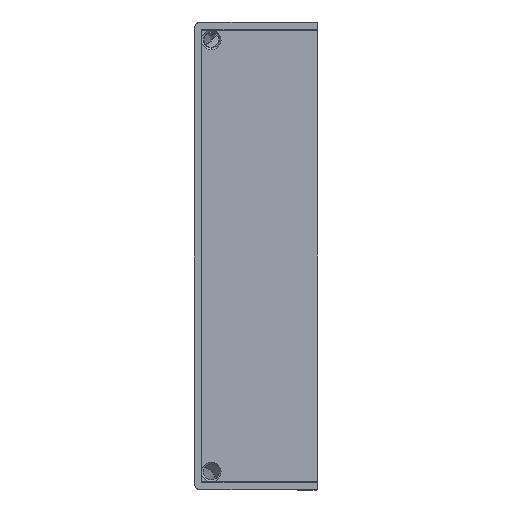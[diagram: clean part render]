
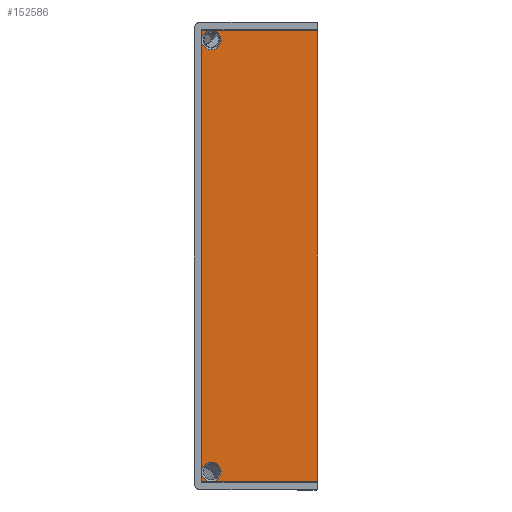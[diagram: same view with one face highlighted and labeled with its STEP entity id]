
A CAD part, left-side view. The second image highlights one B-rep face of the part: STEP entity #152586.
In plain terms, the highlighted planar face has unit normal (-1, 0, 0).
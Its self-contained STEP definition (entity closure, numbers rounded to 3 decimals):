
#908 = ORIENTED_EDGE ( 'NONE', *, *, #179595, .T. ) ;
#4258 = DIRECTION ( 'NONE',  ( 0., 1., 0. ) ) ;
#5704 = CARTESIAN_POINT ( 'NONE',  ( 0., 29.33, 121.85 ) ) ;
#7557 = CIRCLE ( 'NONE', #68201, 2.7 ) ;
#8149 = VECTOR ( 'NONE', #124570, 1000. ) ;
#10782 = EDGE_CURVE ( 'NONE', #13447, #104807, #67777, .T. ) ;
#11325 = CIRCLE ( 'NONE', #123201, 2.7 ) ;
#11792 = CARTESIAN_POINT ( 'NONE',  ( 0., 0.1, 0. ) ) ;
#12240 = EDGE_LOOP ( 'NONE', ( #174398, #150453, #103658, #154685, #177506, #66640, #27086, #129910, #151242, #93060, #908, #182055 ) ) ;
#13447 = VERTEX_POINT ( 'NONE', #11792 ) ;
#13498 = LINE ( 'NONE', #105611, #15500 ) ;
#15262 = VERTEX_POINT ( 'NONE', #32575 ) ;
#15500 = VECTOR ( 'NONE', #61929, 1000. ) ;
#16283 = LINE ( 'NONE', #183841, #130586 ) ;
#17562 = VERTEX_POINT ( 'NONE', #93212 ) ;
#19804 = CARTESIAN_POINT ( 'NONE',  ( 0., 31.9, 121.022 ) ) ;
#20687 = DIRECTION ( 'NONE',  ( 0., 0., -1. ) ) ;
#21163 = DIRECTION ( 'NONE',  ( 1., 0., 0. ) ) ;
#24700 = DIRECTION ( 'NONE',  ( 1., 0., 0. ) ) ;
#27086 = ORIENTED_EDGE ( 'NONE', *, *, #10782, .T. ) ;
#31409 = EDGE_CURVE ( 'NONE', #112810, #69861, #7557, .T. ) ;
#32575 = CARTESIAN_POINT ( 'NONE',  ( 0., 31.9, 2.022 ) ) ;
#33437 = CIRCLE ( 'NONE', #168617, 2.7 ) ;
#46646 = VERTEX_POINT ( 'NONE', #176530 ) ;
#47087 = CARTESIAN_POINT ( 'NONE',  ( 0., 0., 124.7 ) ) ;
#47467 = VECTOR ( 'NONE', #137121, 1000. ) ;
#48898 = CARTESIAN_POINT ( 'NONE',  ( 0., 0.1, 124.7 ) ) ;
#51307 = DIRECTION ( 'NONE',  ( 1., 0., 0. ) ) ;
#52275 = CARTESIAN_POINT ( 'NONE',  ( 0., 31.9, 124.7 ) ) ;
#55645 = CARTESIAN_POINT ( 'NONE',  ( 0., 31.9, 124.7 ) ) ;
#57325 = EDGE_CURVE ( 'NONE', #152050, #112810, #116180, .T. ) ;
#61929 = DIRECTION ( 'NONE',  ( 0., -1., 0. ) ) ;
#62922 = CARTESIAN_POINT ( 'NONE',  ( 0., 29.33, 124.55 ) ) ;
#66153 = AXIS2_PLACEMENT_3D ( 'NONE', #113941, #24700, #128947 ) ;
#66640 = ORIENTED_EDGE ( 'NONE', *, *, #179019, .T. ) ;
#67150 = EDGE_CURVE ( 'NONE', #157488, #152050, #188159, .T. ) ;
#67777 = LINE ( 'NONE', #48898, #186919 ) ;
#67889 = DIRECTION ( 'NONE',  ( 0., 0., -1. ) ) ;
#68201 = AXIS2_PLACEMENT_3D ( 'NONE', #140700, #51307, #155706 ) ;
#69132 = CARTESIAN_POINT ( 'NONE',  ( 0., 31.9, 0. ) ) ;
#69861 = VERTEX_POINT ( 'NONE', #160486 ) ;
#72819 = CARTESIAN_POINT ( 'NONE',  ( 0., 29.33, 119.15 ) ) ;
#73942 = CARTESIAN_POINT ( 'NONE',  ( 0., 29.33, 2.85 ) ) ;
#75094 = EDGE_CURVE ( 'NONE', #46646, #99009, #11325, .T. ) ;
#79363 = DIRECTION ( 'NONE',  ( 1., 0., 0. ) ) ;
#85812 = CARTESIAN_POINT ( 'NONE',  ( 0., 0.1, 124.7 ) ) ;
#85870 = VERTEX_POINT ( 'NONE', #69132 ) ;
#87081 = LINE ( 'NONE', #47087, #47467 ) ;
#88911 = DIRECTION ( 'NONE',  ( 0., 0., -1. ) ) ;
#90258 = CIRCLE ( 'NONE', #142301, 2.7 ) ;
#93060 = ORIENTED_EDGE ( 'NONE', *, *, #75094, .T. ) ;
#93212 = CARTESIAN_POINT ( 'NONE',  ( 0., 29.33, 0.15 ) ) ;
#93456 = DIRECTION ( 'NONE',  ( 1., 0., 0. ) ) ;
#99009 = VERTEX_POINT ( 'NONE', #62922 ) ;
#103658 = ORIENTED_EDGE ( 'NONE', *, *, #174695, .T. ) ;
#104807 = VERTEX_POINT ( 'NONE', #85812 ) ;
#105611 = CARTESIAN_POINT ( 'NONE',  ( 0., 0., 0. ) ) ;
#109551 = CARTESIAN_POINT ( 'NONE',  ( 0., 31.9, 124.7 ) ) ;
#109929 = DIRECTION ( 'NONE',  ( 1., 0., 0. ) ) ;
#110396 = CARTESIAN_POINT ( 'NONE',  ( 0., 29.33, 121.85 ) ) ;
#112810 = VERTEX_POINT ( 'NONE', #160198 ) ;
#113941 = CARTESIAN_POINT ( 'NONE',  ( 0., 29.33, 2.85 ) ) ;
#116180 = LINE ( 'NONE', #52275, #146512 ) ;
#122438 = LINE ( 'NONE', #109551, #8149 ) ;
#122877 = PLANE ( 'NONE',  #124443 ) ;
#123201 = AXIS2_PLACEMENT_3D ( 'NONE', #110396, #21163, #125420 ) ;
#124443 = AXIS2_PLACEMENT_3D ( 'NONE', #182282, #93456, #4258 ) ;
#124570 = DIRECTION ( 'NONE',  ( 0., 0., -1. ) ) ;
#124731 = EDGE_CURVE ( 'NONE', #128488, #104807, #87081, .T. ) ;
#125420 = DIRECTION ( 'NONE',  ( 0., 0., -1. ) ) ;
#127543 = CIRCLE ( 'NONE', #66153, 2.7 ) ;
#128488 = VERTEX_POINT ( 'NONE', #55645 ) ;
#128947 = DIRECTION ( 'NONE',  ( 0., 0., -1. ) ) ;
#129910 = ORIENTED_EDGE ( 'NONE', *, *, #124731, .F. ) ;
#130586 = VECTOR ( 'NONE', #138777, 1000. ) ;
#137121 = DIRECTION ( 'NONE',  ( 0., -1., 0. ) ) ;
#138278 = DIRECTION ( 'NONE',  ( 0., 0., 1. ) ) ;
#138777 = DIRECTION ( 'NONE',  ( 0., 0., -1. ) ) ;
#140700 = CARTESIAN_POINT ( 'NONE',  ( 0., 29.33, 2.85 ) ) ;
#142301 = AXIS2_PLACEMENT_3D ( 'NONE', #168852, #79363, #183837 ) ;
#146512 = VECTOR ( 'NONE', #67889, 1000. ) ;
#147758 = FACE_OUTER_BOUND ( 'NONE', #12240, .T. ) ;
#150453 = ORIENTED_EDGE ( 'NONE', *, *, #31409, .T. ) ;
#151242 = ORIENTED_EDGE ( 'NONE', *, *, #158767, .T. ) ;
#152050 = VERTEX_POINT ( 'NONE', #19804 ) ;
#152586 = ADVANCED_FACE ( 'NONE', ( #147758 ), #122877, .F. ) ;
#154685 = ORIENTED_EDGE ( 'NONE', *, *, #166570, .T. ) ;
#155706 = DIRECTION ( 'NONE',  ( 0., 0., -1. ) ) ;
#157488 = VERTEX_POINT ( 'NONE', #72819 ) ;
#158767 = EDGE_CURVE ( 'NONE', #128488, #46646, #122438, .T. ) ;
#160198 = CARTESIAN_POINT ( 'NONE',  ( 0., 31.9, 3.678 ) ) ;
#160486 = CARTESIAN_POINT ( 'NONE',  ( 0., 29.33, 5.55 ) ) ;
#166570 = EDGE_CURVE ( 'NONE', #17562, #15262, #127543, .T. ) ;
#168617 = AXIS2_PLACEMENT_3D ( 'NONE', #73942, #178451, #88911 ) ;
#168852 = CARTESIAN_POINT ( 'NONE',  ( 0., 29.33, 121.85 ) ) ;
#174398 = ORIENTED_EDGE ( 'NONE', *, *, #57325, .T. ) ;
#174695 = EDGE_CURVE ( 'NONE', #69861, #17562, #33437, .T. ) ;
#176530 = CARTESIAN_POINT ( 'NONE',  ( 0., 31.9, 122.678 ) ) ;
#177506 = ORIENTED_EDGE ( 'NONE', *, *, #184954, .T. ) ;
#178451 = DIRECTION ( 'NONE',  ( 1., 0., 0. ) ) ;
#179019 = EDGE_CURVE ( 'NONE', #85870, #13447, #13498, .T. ) ;
#179595 = EDGE_CURVE ( 'NONE', #99009, #157488, #90258, .T. ) ;
#182055 = ORIENTED_EDGE ( 'NONE', *, *, #67150, .T. ) ;
#182282 = CARTESIAN_POINT ( 'NONE',  ( 0., 0., 124.7 ) ) ;
#183837 = DIRECTION ( 'NONE',  ( 0., 0., -1. ) ) ;
#183841 = CARTESIAN_POINT ( 'NONE',  ( 0., 31.9, 124.7 ) ) ;
#184633 = AXIS2_PLACEMENT_3D ( 'NONE', #5704, #109929, #20687 ) ;
#184954 = EDGE_CURVE ( 'NONE', #15262, #85870, #16283, .T. ) ;
#186919 = VECTOR ( 'NONE', #138278, 1000. ) ;
#188159 = CIRCLE ( 'NONE', #184633, 2.7 ) ;
